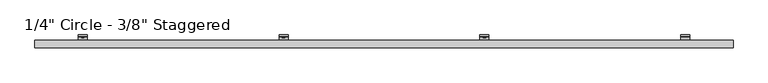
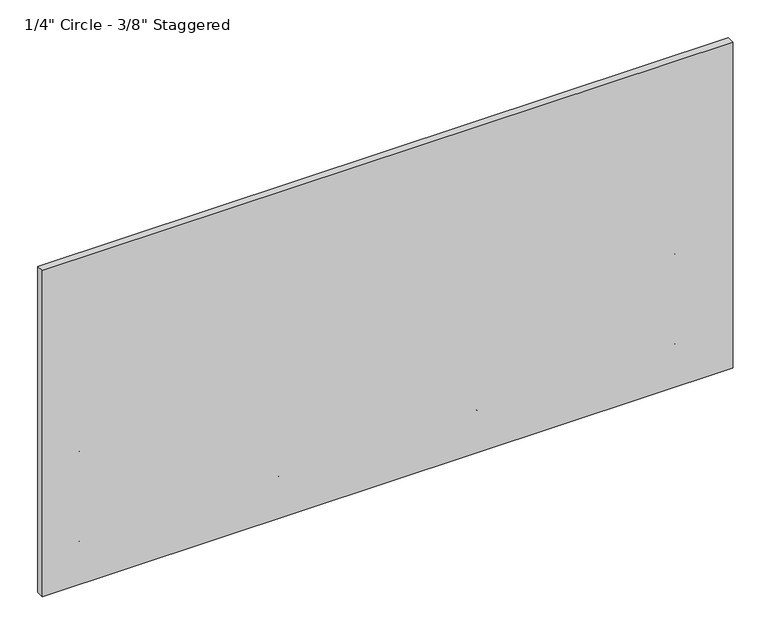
"""IFC4 building model written with IfcOpenShell, lengths in millimetres: plate geometry."""

from ifc_helpers import new_model, si_unit, point, frame, frame_2d, origin, place, context, project, spatial, polyline, circle_curve, trimmed, segment, composite_curve, outline, extrude, source, transform, mapped, element, save
from ifc_brep_helpers import plane_surface, cylinder_surface, revolved_surface, advanced_brep


def plate_d884827e(model_context):
    return source(origin(), model_context, "Body", "SolidModel", [
        advanced_brep(
        [(1259.453798, -47.625, 561.2468868), (1259.453798, -51.2819443, 553.5848544), (1259.453798, -89.5163624, 526.8128266), (1259.453798, -92.9330442, 530.2295084), (1259.453798, -54.3526876, 557.2437649), (1259.453798, -52.4002, 561.2469577), (1259.453798, -52.4002, 595.439572), (1259.453798, -47.625, 595.439572), (1297.553798, -47.625, 561.2468868), (1297.553798, -47.625, 595.439572), (1297.553798, -52.4002, 595.439572), (1297.553798, -52.4002, 561.2469577), (1297.553798, -54.3526876, 557.2437649), (1297.553798, -92.9330442, 530.2295084), (1297.553798, -89.5163624, 526.8128266), (1297.553798, -51.2819443, 553.5848544), (1285.2449869, -52.4002, 581.3943558), (1285.2449869, -52.4002, 575.0443558), (1269.0171267, -52.4002, 575.0443558), (1269.0171267, -52.4002, 581.3943558), (1285.2449869, -47.625, 575.0443558), (1285.2449869, -47.625, 581.3943558), (1269.0171267, -47.625, 581.3943558), (1269.0171267, -47.625, 575.0443558)],
        [
            (0, 1, circle_curve(frame((1259.453798, -57.4802202, 561.2468868), z_axis=(-1.0, 0.0, 0.0), x_axis=(0.0, -1.0, 0.0)), 9.8552202)),
            (1, 2),
            (2, 3),
            (3, 4),
            (4, 5, circle_curve(frame((1259.453798, -57.4803246, 561.2469577), z_axis=(1.0, 0.0, 0.0), x_axis=(0.0, -1.0, 0.0)), 5.0801246)),
            (5, 6),
            (6, 7),
            (7, 0),
            (8, 9),
            (9, 10),
            (10, 11),
            (11, 12, circle_curve(frame((1297.553798, -57.4803246, 561.2469577), z_axis=(-1.0, 0.0, 0.0), x_axis=(0.0, -1.0, 0.0)), 5.0801246)),
            (12, 13),
            (13, 14),
            (14, 15),
            (15, 8, circle_curve(frame((1297.553798, -57.4802202, 561.2468868), z_axis=(1.0, 0.0, 0.0), x_axis=(0.0, -1.0, 0.0)), 9.8552202)),
            (4, 12),
            (11, 5),
            (10, 6),
            (16, 17, circle_curve(frame((1285.2449869, -52.4002, 578.2193558), z_axis=(0.0, 1.0, 0.0), x_axis=(0.0, 0.0, -1.0)), 3.175)),
            (17, 18),
            (18, 19, circle_curve(frame((1269.0171267, -52.4002, 578.2193558), z_axis=(0.0, 1.0, 0.0), x_axis=(0.0, 0.0, -1.0)), 3.175)),
            (19, 16),
            (9, 7),
            (8, 0),
            (20, 21, circle_curve(frame((1285.2449869, -47.625, 578.2193558), z_axis=(0.0, -1.0, 0.0), x_axis=(0.0, 0.0, -1.0)), 3.175)),
            (21, 22),
            (22, 23, circle_curve(frame((1269.0171267, -47.625, 578.2193558), z_axis=(0.0, -1.0, 0.0), x_axis=(0.0, 0.0, -1.0)), 3.175)),
            (23, 20),
            (15, 1),
            (20, 17),
            (16, 21),
            (19, 22),
            (18, 23),
            (14, 2),
            (13, 3),
        ],
        [
            plane_surface(frame((1259.453798, -67.3354404, 561.2468868), z_axis=(-1.0, 0.0, 0.0), x_axis=(0.0, 0.0, 1.0))),
            plane_surface(frame((1297.553798, -67.3354404, 561.2468868), z_axis=(1.0, 0.0, 0.0), x_axis=(0.0, 0.0, -1.0))),
            revolved_surface(polyline([(1297.553798, -62.5604492, 561.2469577), (1259.453798, -62.5604492, 561.2469577)]), (1297.553798, -57.4803246, 561.2469577), (1.0, 0.0, 0.0)),
            plane_surface(frame((1259.453798, -52.4002, 561.2469577), z_axis=(0.0, -1.0, 0.0), x_axis=(1.0, 0.0, 0.0))),
            plane_surface(frame((1259.453798, -52.4002, 595.439572), z_axis=(0.0, 0.0, 1.0), x_axis=(1.0, 0.0, 0.0))),
            plane_surface(frame((1259.453798, -47.625, 595.439572), z_axis=(0.0, 1.0, 6.99569853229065e-12), x_axis=(1.0, 0.0, 0.0))),
            cylinder_surface(frame((1297.553798, -57.4802202, 561.2468868), z_axis=(-1.0, 0.0, 0.0), x_axis=(0.0, -1.0, 0.0)), 9.8552202),
            revolved_surface(polyline([(1285.2449869, -52.4002, 575.0443558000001), (1285.2449869, -47.625, 575.0443558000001)]), (1285.2449869, -25.6669948, 578.2193558), (0.0, -1.0, 0.0)),
            plane_surface(frame((1285.2449869, -86.677982, 581.3943558), z_axis=(0.0, 0.0, -1.0), x_axis=(0.0, 1.0, 0.0))),
            revolved_surface(polyline([(1269.0171267, -52.4002, 575.0443558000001), (1269.0171267, -47.625, 575.0443558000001)]), (1269.0171267, -25.6669948, 578.2193558), (0.0, -1.0, 0.0)),
            plane_surface(frame((1269.0171267, -86.677982, 575.0443558), z_axis=(-2.7237733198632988e-11, 0.0, 1.0), x_axis=(0.0, 1.0, 0.0))),
            plane_surface(frame((1259.453798, -51.2819443, 553.5848544), z_axis=(0.0, 0.5735764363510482, -0.8191520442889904), x_axis=(1.0, 0.0, 0.0))),
            plane_surface(frame((1259.453798, -89.5163624, 526.8128266), z_axis=(0.0, -0.7071067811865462, -0.7071067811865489), x_axis=(1.0, 0.0, 0.0))),
            plane_surface(frame((1259.453798, -92.9330442, 530.2295084), z_axis=(0.0, -0.5735764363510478, 0.8191520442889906), x_axis=(1.0, 0.0, 0.0))),
        ],
        [
            (0, [[1, 2, 3, 4, 5, 6, 7, 8]]),
            (1, [[9, 10, 11, 12, 13, 14, 15, 16]]),
            (2, [[-5, 17, -12, 18]]),
            (3, [[-6, -18, -11, 19], [20, 21, 22, 23]]),
            (4, [[-7, -19, -10, 24]]),
            (5, [[-8, -24, -9, 25], [26, 27, 28, 29]]),
            (6, [[-1, -25, -16, 30]]),
            (7, [[31, -20, 32, -26]]),
            (8, [[-32, -23, 33, -27]]),
            (9, [[-33, -22, 34, -28]]),
            (10, [[-31, -29, -34, -21]]),
            (11, [[-2, -30, -15, 35]]),
            (12, [[-3, -35, -14, 36]]),
            (13, [[-4, -36, -13, -17]]),
        ],
    ),
        extrude(outline(polyline([(578.3961989, 421.1499361), (574.0504864, 423.6589344), (574.0504864, 428.676931), (578.3961989, 431.1859292), (582.7419114, 428.676931), (582.7419114, 423.6589344), (578.3961989, 421.1499361)])), frame((0.0, -58.7607779, 0.0), z_axis=(0.0, 1.0, 0.0), x_axis=(0.0, 0.0, 1.0)), (0.0, 0.0, 1.0), 11.1357779),
        extrude(outline(composite_curve([segment(trimmed(circle_curve(frame_2d((578.4895059, 426.1679327)), 6.35), [point((578.4895059, 432.5179327))], [point((578.4895059, 419.8179327))], False, "CARTESIAN"), True, "CONTINUOUS"), segment(trimmed(circle_curve(frame_2d((578.4895059, 426.1679327)), 6.35), [point((578.4895059, 419.8179327))], [point((578.4895059, 432.5179327))], False, "CARTESIAN"), True, "CONTINUOUS")], self_intersect=False)), frame((0.0, -57.0817743, 0.0), z_axis=(0.0, 1.0, 0.0), x_axis=(0.0, 0.0, 1.0)), (0.0, 0.0, 1.0), 9.4567743),
        advanced_brep(
        [(407.1179327, -47.625, 561.2468868), (407.1179327, -51.2819443, 553.5848544), (407.1179327, -89.5163624, 526.8128266), (407.1179327, -92.9330442, 530.2295084), (407.1179327, -54.3526876, 557.2437649), (407.1179327, -52.4002, 561.2469577), (407.1179327, -52.4002, 595.439572), (407.1179327, -47.625, 595.439572), (445.2179327, -47.625, 561.2468868), (445.2179327, -47.625, 595.439572), (445.2179327, -52.4002, 595.439572), (445.2179327, -52.4002, 561.2469577), (445.2179327, -54.3526876, 557.2437649), (445.2179327, -92.9330442, 530.2295084), (445.2179327, -89.5163624, 526.8128266), (445.2179327, -51.2819443, 553.5848544), (432.9091216, -52.4002, 581.3943558), (432.9091216, -52.4002, 575.0443558), (416.6812614, -52.4002, 575.0443558), (416.6812614, -52.4002, 581.3943558), (432.9091216, -47.625, 575.0443558), (432.9091216, -47.625, 581.3943558), (416.6812614, -47.625, 581.3943558), (416.6812614, -47.625, 575.0443558)],
        [
            (0, 1, circle_curve(frame((407.1179327, -57.4802202, 561.2468868), z_axis=(-1.0, 0.0, 0.0), x_axis=(0.0, -1.0, 0.0)), 9.8552202)),
            (1, 2),
            (2, 3),
            (3, 4),
            (4, 5, circle_curve(frame((407.1179327, -57.4803246, 561.2469577), z_axis=(1.0, 0.0, 0.0), x_axis=(0.0, -1.0, 0.0)), 5.0801246)),
            (5, 6),
            (6, 7),
            (7, 0),
            (8, 9),
            (9, 10),
            (10, 11),
            (11, 12, circle_curve(frame((445.2179327, -57.4803246, 561.2469577), z_axis=(-1.0, 0.0, 0.0), x_axis=(0.0, -1.0, 0.0)), 5.0801246)),
            (12, 13),
            (13, 14),
            (14, 15),
            (15, 8, circle_curve(frame((445.2179327, -57.4802202, 561.2468868), z_axis=(1.0, 0.0, 0.0), x_axis=(0.0, -1.0, 0.0)), 9.8552202)),
            (4, 12),
            (11, 5),
            (10, 6),
            (16, 17, circle_curve(frame((432.9091216, -52.4002, 578.2193558), z_axis=(0.0, 1.0, 0.0), x_axis=(0.0, 0.0, -1.0)), 3.175)),
            (17, 18),
            (18, 19, circle_curve(frame((416.6812614, -52.4002, 578.2193558), z_axis=(0.0, 1.0, 0.0), x_axis=(0.0, 0.0, -1.0)), 3.175)),
            (19, 16),
            (9, 7),
            (8, 0),
            (20, 21, circle_curve(frame((432.9091216, -47.625, 578.2193558), z_axis=(0.0, -1.0, 0.0), x_axis=(0.0, 0.0, -1.0)), 3.175)),
            (21, 22),
            (22, 23, circle_curve(frame((416.6812614, -47.625, 578.2193558), z_axis=(0.0, -1.0, 0.0), x_axis=(0.0, 0.0, -1.0)), 3.175)),
            (23, 20),
            (15, 1),
            (20, 17),
            (16, 21),
            (19, 22),
            (18, 23),
            (14, 2),
            (13, 3),
        ],
        [
            plane_surface(frame((407.1179327, -67.3354404, 561.2468868), z_axis=(-1.0, 0.0, 0.0), x_axis=(0.0, 0.0, 1.0))),
            plane_surface(frame((445.2179327, -67.3354404, 561.2468868), z_axis=(1.0, 0.0, 0.0), x_axis=(0.0, 0.0, -1.0))),
            revolved_surface(polyline([(445.2179327, -62.5604492, 561.2469577), (407.1179327, -62.5604492, 561.2469577)]), (445.2179327, -57.4803246, 561.2469577), (1.0, 0.0, 0.0)),
            plane_surface(frame((407.1179327, -52.4002, 561.2469577), z_axis=(0.0, -1.0, 0.0), x_axis=(1.0, 0.0, 0.0))),
            plane_surface(frame((407.1179327, -52.4002, 595.439572), z_axis=(0.0, 0.0, 1.0), x_axis=(1.0, 0.0, 0.0))),
            plane_surface(frame((407.1179327, -47.625, 595.439572), z_axis=(0.0, 1.0, 6.99569853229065e-12), x_axis=(1.0, 0.0, 0.0))),
            cylinder_surface(frame((445.2179327, -57.4802202, 561.2468868), z_axis=(-1.0, 0.0, 0.0), x_axis=(0.0, -1.0, 0.0)), 9.8552202),
            revolved_surface(polyline([(432.9091216, -52.4002, 575.0443558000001), (432.9091216, -47.625, 575.0443558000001)]), (432.9091216, -25.6669948, 578.2193558), (0.0, -1.0, 0.0)),
            plane_surface(frame((432.9091216, -86.677982, 581.3943558), z_axis=(0.0, 0.0, -1.0), x_axis=(0.0, 1.0, 0.0))),
            revolved_surface(polyline([(416.6812614, -52.4002, 575.0443558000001), (416.6812614, -47.625, 575.0443558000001)]), (416.6812614, -25.6669948, 578.2193558), (0.0, -1.0, 0.0)),
            plane_surface(frame((416.6812614, -86.677982, 575.0443558), z_axis=(-2.7237733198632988e-11, 0.0, 1.0), x_axis=(0.0, 1.0, 0.0))),
            plane_surface(frame((407.1179327, -51.2819443, 553.5848544), z_axis=(0.0, 0.5735764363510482, -0.8191520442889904), x_axis=(1.0, 0.0, 0.0))),
            plane_surface(frame((407.1179327, -89.5163624, 526.8128266), z_axis=(0.0, -0.7071067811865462, -0.7071067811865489), x_axis=(1.0, 0.0, 0.0))),
            plane_surface(frame((407.1179327, -92.9330442, 530.2295084), z_axis=(0.0, -0.5735764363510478, 0.8191520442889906), x_axis=(1.0, 0.0, 0.0))),
        ],
        [
            (0, [[1, 2, 3, 4, 5, 6, 7, 8]]),
            (1, [[9, 10, 11, 12, 13, 14, 15, 16]]),
            (2, [[-5, 17, -12, 18]]),
            (3, [[-6, -18, -11, 19], [20, 21, 22, 23]]),
            (4, [[-7, -19, -10, 24]]),
            (5, [[-8, -24, -9, 25], [26, 27, 28, 29]]),
            (6, [[-1, -25, -16, 30]]),
            (7, [[31, -20, 32, -26]]),
            (8, [[-32, -23, 33, -27]]),
            (9, [[-33, -22, 34, -28]]),
            (10, [[-31, -29, -34, -21]]),
            (11, [[-2, -30, -15, 35]]),
            (12, [[-3, -35, -14, 36]]),
            (13, [[-4, -36, -13, -17]]),
        ],
    ),
        extrude(outline(polyline([(578.3961989, -431.1859292), (574.0504864, -428.676931), (574.0504864, -423.6589344), (578.3961989, -421.1499361), (582.7419114, -423.6589344), (582.7419114, -428.676931), (578.3961989, -431.1859292)])), frame((0.0, -58.7607779, 0.0), z_axis=(0.0, 1.0, 0.0), x_axis=(0.0, 0.0, 1.0)), (0.0, 0.0, 1.0), 11.1357779),
        extrude(outline(composite_curve([segment(trimmed(circle_curve(frame_2d((578.4895059, -426.1679327)), 6.35), [point((578.4895059, -419.8179327))], [point((578.4895059, -432.5179327))], False, "CARTESIAN"), True, "CONTINUOUS"), segment(trimmed(circle_curve(frame_2d((578.4895059, -426.1679327)), 6.35), [point((578.4895059, -432.5179327))], [point((578.4895059, -419.8179327))], False, "CARTESIAN"), True, "CONTINUOUS")], self_intersect=False)), frame((0.0, -57.0817743, 0.0), z_axis=(0.0, 1.0, 0.0), x_axis=(0.0, 0.0, 1.0)), (0.0, 0.0, 1.0), 9.4567743),
        advanced_brep(
        [(-445.2179327, -47.625, 561.2468868), (-445.2179327, -51.2819443, 553.5848544), (-445.2179327, -89.5163624, 526.8128266), (-445.2179327, -92.9330442, 530.2295084), (-445.2179327, -54.3526876, 557.2437649), (-445.2179327, -52.4002, 561.2469577), (-445.2179327, -52.4002, 595.439572), (-445.2179327, -47.625, 595.439572), (-407.1179327, -47.625, 561.2468868), (-407.1179327, -47.625, 595.439572), (-407.1179327, -52.4002, 595.439572), (-407.1179327, -52.4002, 561.2469577), (-407.1179327, -54.3526876, 557.2437649), (-407.1179327, -92.9330442, 530.2295084), (-407.1179327, -89.5163624, 526.8128266), (-407.1179327, -51.2819443, 553.5848544), (-419.4267438, -52.4002, 581.3943558), (-419.4267438, -52.4002, 575.0443558), (-435.654604, -52.4002, 575.0443558), (-435.654604, -52.4002, 581.3943558), (-419.4267438, -47.625, 575.0443558), (-419.4267438, -47.625, 581.3943558), (-435.654604, -47.625, 581.3943558), (-435.654604, -47.625, 575.0443558)],
        [
            (0, 1, circle_curve(frame((-445.2179327, -57.4802202, 561.2468868), z_axis=(-1.0, 0.0, 0.0), x_axis=(0.0, -1.0, 0.0)), 9.8552202)),
            (1, 2),
            (2, 3),
            (3, 4),
            (4, 5, circle_curve(frame((-445.2179327, -57.4803246, 561.2469577), z_axis=(1.0, 0.0, 0.0), x_axis=(0.0, -1.0, 0.0)), 5.0801246)),
            (5, 6),
            (6, 7),
            (7, 0),
            (8, 9),
            (9, 10),
            (10, 11),
            (11, 12, circle_curve(frame((-407.1179327, -57.4803246, 561.2469577), z_axis=(-1.0, 0.0, 0.0), x_axis=(0.0, -1.0, 0.0)), 5.0801246)),
            (12, 13),
            (13, 14),
            (14, 15),
            (15, 8, circle_curve(frame((-407.1179327, -57.4802202, 561.2468868), z_axis=(1.0, 0.0, 0.0), x_axis=(0.0, -1.0, 0.0)), 9.8552202)),
            (4, 12),
            (11, 5),
            (10, 6),
            (16, 17, circle_curve(frame((-419.4267438, -52.4002, 578.2193558), z_axis=(0.0, 1.0, 0.0), x_axis=(0.0, 0.0, -1.0)), 3.175)),
            (17, 18),
            (18, 19, circle_curve(frame((-435.654604, -52.4002, 578.2193558), z_axis=(0.0, 1.0, 0.0), x_axis=(0.0, 0.0, -1.0)), 3.175)),
            (19, 16),
            (9, 7),
            (8, 0),
            (20, 21, circle_curve(frame((-419.4267438, -47.625, 578.2193558), z_axis=(0.0, -1.0, 0.0), x_axis=(0.0, 0.0, -1.0)), 3.175)),
            (21, 22),
            (22, 23, circle_curve(frame((-435.654604, -47.625, 578.2193558), z_axis=(0.0, -1.0, 0.0), x_axis=(0.0, 0.0, -1.0)), 3.175)),
            (23, 20),
            (15, 1),
            (20, 17),
            (16, 21),
            (19, 22),
            (18, 23),
            (14, 2),
            (13, 3),
        ],
        [
            plane_surface(frame((-445.2179327, -67.3354404, 561.2468868), z_axis=(-1.0, 0.0, 0.0), x_axis=(0.0, 0.0, 1.0))),
            plane_surface(frame((-407.1179327, -67.3354404, 561.2468868), z_axis=(1.0, 0.0, 0.0), x_axis=(0.0, 0.0, -1.0))),
            revolved_surface(polyline([(-407.1179327, -62.5604492, 561.2469577), (-445.2179327, -62.5604492, 561.2469577)]), (-407.1179327, -57.4803246, 561.2469577), (1.0, 0.0, 0.0)),
            plane_surface(frame((-445.2179327, -52.4002, 561.2469577), z_axis=(0.0, -1.0, 0.0), x_axis=(1.0, 0.0, 0.0))),
            plane_surface(frame((-445.2179327, -52.4002, 595.439572), z_axis=(0.0, 0.0, 1.0), x_axis=(1.0, 0.0, 0.0))),
            plane_surface(frame((-445.2179327, -47.625, 595.439572), z_axis=(0.0, 1.0, 6.99569853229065e-12), x_axis=(1.0, 0.0, 0.0))),
            cylinder_surface(frame((-407.1179327, -57.4802202, 561.2468868), z_axis=(-1.0, 0.0, 0.0), x_axis=(0.0, -1.0, 0.0)), 9.8552202),
            revolved_surface(polyline([(-419.4267438, -52.4002, 575.0443558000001), (-419.4267438, -47.625, 575.0443558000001)]), (-419.4267438, -25.6669948, 578.2193558), (0.0, -1.0, 0.0)),
            plane_surface(frame((-419.4267438, -86.677982, 581.3943558), z_axis=(0.0, 0.0, -1.0), x_axis=(0.0, 1.0, 0.0))),
            revolved_surface(polyline([(-435.654604, -52.4002, 575.0443558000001), (-435.654604, -47.625, 575.0443558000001)]), (-435.654604, -25.6669948, 578.2193558), (0.0, -1.0, 0.0)),
            plane_surface(frame((-435.654604, -86.677982, 575.0443558), z_axis=(-2.7237733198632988e-11, 0.0, 1.0), x_axis=(0.0, 1.0, 0.0))),
            plane_surface(frame((-445.2179327, -51.2819443, 553.5848544), z_axis=(0.0, 0.5735764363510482, -0.8191520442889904), x_axis=(1.0, 0.0, 0.0))),
            plane_surface(frame((-445.2179327, -89.5163624, 526.8128266), z_axis=(0.0, -0.7071067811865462, -0.7071067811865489), x_axis=(1.0, 0.0, 0.0))),
            plane_surface(frame((-445.2179327, -92.9330442, 530.2295084), z_axis=(0.0, -0.5735764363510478, 0.8191520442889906), x_axis=(1.0, 0.0, 0.0))),
        ],
        [
            (0, [[1, 2, 3, 4, 5, 6, 7, 8]]),
            (1, [[9, 10, 11, 12, 13, 14, 15, 16]]),
            (2, [[-5, 17, -12, 18]]),
            (3, [[-6, -18, -11, 19], [20, 21, 22, 23]]),
            (4, [[-7, -19, -10, 24]]),
            (5, [[-8, -24, -9, 25], [26, 27, 28, 29]]),
            (6, [[-1, -25, -16, 30]]),
            (7, [[31, -20, 32, -26]]),
            (8, [[-32, -23, 33, -27]]),
            (9, [[-33, -22, 34, -28]]),
            (10, [[-31, -29, -34, -21]]),
            (11, [[-2, -30, -15, 35]]),
            (12, [[-3, -35, -14, 36]]),
            (13, [[-4, -36, -13, -17]]),
        ],
    ),
        extrude(outline(polyline([(578.3961989, -1283.5217946), (574.0504864, -1281.0127963), (574.0504864, -1275.9947997), (578.3961989, -1273.4858014), (582.7419114, -1275.9947997), (582.7419114, -1281.0127963), (578.3961989, -1283.5217946)])), frame((0.0, -58.7607779, 0.0), z_axis=(0.0, 1.0, 0.0), x_axis=(0.0, 0.0, 1.0)), (0.0, 0.0, 1.0), 11.1357779),
        extrude(outline(composite_curve([segment(trimmed(circle_curve(frame_2d((578.4895059, -1278.503798)), 6.35), [point((578.4895059, -1272.153798))], [point((578.4895059, -1284.853798))], False, "CARTESIAN"), True, "CONTINUOUS"), segment(trimmed(circle_curve(frame_2d((578.4895059, -1278.503798)), 6.35), [point((578.4895059, -1284.853798))], [point((578.4895059, -1272.153798))], False, "CARTESIAN"), True, "CONTINUOUS")], self_intersect=False)), frame((0.0, -57.0817743, 0.0), z_axis=(0.0, 1.0, 0.0), x_axis=(0.0, 0.0, 1.0)), (0.0, 0.0, 1.0), 9.4567743),
        advanced_brep(
        [(-1297.553798, -47.625, 561.2468868), (-1297.553798, -51.2819443, 553.5848544), (-1297.553798, -89.5163624, 526.8128266), (-1297.553798, -92.9330442, 530.2295084), (-1297.553798, -54.3526876, 557.2437649), (-1297.553798, -52.4002, 561.2469577), (-1297.553798, -52.4002, 595.439572), (-1297.553798, -47.625, 595.439572), (-1259.453798, -47.625, 561.2468868), (-1259.453798, -47.625, 595.439572), (-1259.453798, -52.4002, 595.439572), (-1259.453798, -52.4002, 561.2469577), (-1259.453798, -54.3526876, 557.2437649), (-1259.453798, -92.9330442, 530.2295084), (-1259.453798, -89.5163624, 526.8128266), (-1259.453798, -51.2819443, 553.5848544), (-1271.7626091, -52.4002, 581.3943558), (-1271.7626091, -52.4002, 575.0443558), (-1287.9904693, -52.4002, 575.0443558), (-1287.9904693, -52.4002, 581.3943558), (-1271.7626091, -47.625, 575.0443558), (-1271.7626091, -47.625, 581.3943558), (-1287.9904693, -47.625, 581.3943558), (-1287.9904693, -47.625, 575.0443558)],
        [
            (0, 1, circle_curve(frame((-1297.553798, -57.4802202, 561.2468868), z_axis=(-1.0, 0.0, 0.0), x_axis=(0.0, -1.0, 0.0)), 9.8552202)),
            (1, 2),
            (2, 3),
            (3, 4),
            (4, 5, circle_curve(frame((-1297.553798, -57.4803246, 561.2469577), z_axis=(1.0, 0.0, 0.0), x_axis=(0.0, -1.0, 0.0)), 5.0801246)),
            (5, 6),
            (6, 7),
            (7, 0),
            (8, 9),
            (9, 10),
            (10, 11),
            (11, 12, circle_curve(frame((-1259.453798, -57.4803246, 561.2469577), z_axis=(-1.0, 0.0, 0.0), x_axis=(0.0, -1.0, 0.0)), 5.0801246)),
            (12, 13),
            (13, 14),
            (14, 15),
            (15, 8, circle_curve(frame((-1259.453798, -57.4802202, 561.2468868), z_axis=(1.0, 0.0, 0.0), x_axis=(0.0, -1.0, 0.0)), 9.8552202)),
            (4, 12),
            (11, 5),
            (10, 6),
            (16, 17, circle_curve(frame((-1271.7626091, -52.4002, 578.2193558), z_axis=(0.0, 1.0, 0.0), x_axis=(0.0, 0.0, -1.0)), 3.175)),
            (17, 18),
            (18, 19, circle_curve(frame((-1287.9904693, -52.4002, 578.2193558), z_axis=(0.0, 1.0, 0.0), x_axis=(0.0, 0.0, -1.0)), 3.175)),
            (19, 16),
            (9, 7),
            (8, 0),
            (20, 21, circle_curve(frame((-1271.7626091, -47.625, 578.2193558), z_axis=(0.0, -1.0, 0.0), x_axis=(0.0, 0.0, -1.0)), 3.175)),
            (21, 22),
            (22, 23, circle_curve(frame((-1287.9904693, -47.625, 578.2193558), z_axis=(0.0, -1.0, 0.0), x_axis=(0.0, 0.0, -1.0)), 3.175)),
            (23, 20),
            (15, 1),
            (20, 17),
            (16, 21),
            (19, 22),
            (18, 23),
            (14, 2),
            (13, 3),
        ],
        [
            plane_surface(frame((-1297.553798, -67.3354404, 561.2468868), z_axis=(-1.0, 0.0, 0.0), x_axis=(0.0, 0.0, 1.0))),
            plane_surface(frame((-1259.453798, -67.3354404, 561.2468868), z_axis=(1.0, 0.0, 0.0), x_axis=(0.0, 0.0, -1.0))),
            revolved_surface(polyline([(-1259.453798, -62.5604492, 561.2469577), (-1297.553798, -62.5604492, 561.2469577)]), (-1259.453798, -57.4803246, 561.2469577), (1.0, 0.0, 0.0)),
            plane_surface(frame((-1297.553798, -52.4002, 561.2469577), z_axis=(0.0, -1.0, 0.0), x_axis=(1.0, 0.0, 0.0))),
            plane_surface(frame((-1297.553798, -52.4002, 595.439572), z_axis=(0.0, 0.0, 1.0), x_axis=(1.0, 0.0, 0.0))),
            plane_surface(frame((-1297.553798, -47.625, 595.439572), z_axis=(0.0, 1.0, 6.99569853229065e-12), x_axis=(1.0, 0.0, 0.0))),
            cylinder_surface(frame((-1259.453798, -57.4802202, 561.2468868), z_axis=(-1.0, 0.0, 0.0), x_axis=(0.0, -1.0, 0.0)), 9.8552202),
            revolved_surface(polyline([(-1271.7626091, -52.4002, 575.0443558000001), (-1271.7626091, -47.625, 575.0443558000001)]), (-1271.7626091, -25.6669948, 578.2193558), (0.0, -1.0, 0.0)),
            plane_surface(frame((-1271.7626091, -86.677982, 581.3943558), z_axis=(0.0, 0.0, -1.0), x_axis=(0.0, 1.0, 0.0))),
            revolved_surface(polyline([(-1287.9904693, -52.4002, 575.0443558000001), (-1287.9904693, -47.625, 575.0443558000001)]), (-1287.9904693, -25.6669948, 578.2193558), (0.0, -1.0, 0.0)),
            plane_surface(frame((-1287.9904693, -86.677982, 575.0443558), z_axis=(-2.7237733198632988e-11, 0.0, 1.0), x_axis=(0.0, 1.0, 0.0))),
            plane_surface(frame((-1297.553798, -51.2819443, 553.5848544), z_axis=(0.0, 0.5735764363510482, -0.8191520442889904), x_axis=(1.0, 0.0, 0.0))),
            plane_surface(frame((-1297.553798, -89.5163624, 526.8128266), z_axis=(0.0, -0.7071067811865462, -0.7071067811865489), x_axis=(1.0, 0.0, 0.0))),
            plane_surface(frame((-1297.553798, -92.9330442, 530.2295084), z_axis=(0.0, -0.5735764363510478, 0.8191520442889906), x_axis=(1.0, 0.0, 0.0))),
        ],
        [
            (0, [[1, 2, 3, 4, 5, 6, 7, 8]]),
            (1, [[9, 10, 11, 12, 13, 14, 15, 16]]),
            (2, [[-5, 17, -12, 18]]),
            (3, [[-6, -18, -11, 19], [20, 21, 22, 23]]),
            (4, [[-7, -19, -10, 24]]),
            (5, [[-8, -24, -9, 25], [26, 27, 28, 29]]),
            (6, [[-1, -25, -16, 30]]),
            (7, [[31, -20, 32, -26]]),
            (8, [[-32, -23, 33, -27]]),
            (9, [[-33, -22, 34, -28]]),
            (10, [[-31, -29, -34, -21]]),
            (11, [[-2, -30, -15, 35]]),
            (12, [[-3, -35, -14, 36]]),
            (13, [[-4, -36, -13, -17]]),
        ],
    ),
        extrude(outline(polyline([(169.8795323, 1273.4858014), (165.5338197, 1275.9947997), (165.5338197, 1281.0127963), (169.8795323, 1283.5217946), (174.2252448, 1281.0127963), (174.2252448, 1275.9947997), (169.8795323, 1273.4858014)])), frame((0.0, -58.7607779, 0.0), z_axis=(0.0, 1.0, 0.0), x_axis=(0.0, 0.0, 1.0)), (0.0, 0.0, 1.0), 11.1357779),
        extrude(outline(composite_curve([segment(trimmed(circle_curve(frame_2d((169.9728392, 1278.503798)), 6.35), [point((169.9728392, 1284.853798))], [point((169.9728392, 1272.153798))], False, "CARTESIAN"), True, "CONTINUOUS"), segment(trimmed(circle_curve(frame_2d((169.9728392, 1278.503798)), 6.35), [point((169.9728392, 1272.153798))], [point((169.9728392, 1284.853798))], False, "CARTESIAN"), True, "CONTINUOUS")], self_intersect=False)), frame((0.0, -57.0817743, 0.0), z_axis=(0.0, 1.0, 0.0), x_axis=(0.0, 0.0, 1.0)), (0.0, 0.0, 1.0), 9.4567743),
        advanced_brep(
        [(1259.453798, -47.625, 152.7302202), (1259.453798, -51.2819443, 145.0681877), (1259.453798, -89.5163624, 118.29616), (1259.453798, -92.9330442, 121.7128418), (1259.453798, -54.3526876, 148.7270983), (1259.453798, -52.4002, 152.7302911), (1259.453798, -52.4002, 186.9229053), (1259.453798, -47.625, 186.9229053), (1297.553798, -47.625, 152.7302202), (1297.553798, -47.625, 186.9229053), (1297.553798, -52.4002, 186.9229053), (1297.553798, -52.4002, 152.7302911), (1297.553798, -54.3526876, 148.7270983), (1297.553798, -92.9330442, 121.7128418), (1297.553798, -89.5163624, 118.29616), (1297.553798, -51.2819443, 145.0681877), (1285.2449869, -52.4002, 172.8776891), (1285.2449869, -52.4002, 166.5276891), (1269.0171267, -52.4002, 166.5276891), (1269.0171267, -52.4002, 172.8776891), (1285.2449869, -47.625, 166.5276891), (1285.2449869, -47.625, 172.8776891), (1269.0171267, -47.625, 172.8776891), (1269.0171267, -47.625, 166.5276891)],
        [
            (0, 1, circle_curve(frame((1259.453798, -57.4802202, 152.7302202), z_axis=(-1.0, 0.0, 0.0), x_axis=(0.0, -1.0, 0.0)), 9.8552202)),
            (1, 2),
            (2, 3),
            (3, 4),
            (4, 5, circle_curve(frame((1259.453798, -57.4803246, 152.7302911), z_axis=(1.0, 0.0, 0.0), x_axis=(0.0, -1.0, 0.0)), 5.0801246)),
            (5, 6),
            (6, 7),
            (7, 0),
            (8, 9),
            (9, 10),
            (10, 11),
            (11, 12, circle_curve(frame((1297.553798, -57.4803246, 152.7302911), z_axis=(-1.0, 0.0, 0.0), x_axis=(0.0, -1.0, 0.0)), 5.0801246)),
            (12, 13),
            (13, 14),
            (14, 15),
            (15, 8, circle_curve(frame((1297.553798, -57.4802202, 152.7302202), z_axis=(1.0, 0.0, 0.0), x_axis=(0.0, -1.0, 0.0)), 9.8552202)),
            (4, 12),
            (11, 5),
            (10, 6),
            (16, 17, circle_curve(frame((1285.2449869, -52.4002, 169.7026891), z_axis=(0.0, 1.0, 0.0), x_axis=(0.0, 0.0, -1.0)), 3.175)),
            (17, 18),
            (18, 19, circle_curve(frame((1269.0171267, -52.4002, 169.7026891), z_axis=(0.0, 1.0, 0.0), x_axis=(0.0, 0.0, -1.0)), 3.175)),
            (19, 16),
            (9, 7),
            (8, 0),
            (20, 21, circle_curve(frame((1285.2449869, -47.625, 169.7026891), z_axis=(0.0, -1.0, 0.0), x_axis=(0.0, 0.0, -1.0)), 3.175)),
            (21, 22),
            (22, 23, circle_curve(frame((1269.0171267, -47.625, 169.7026891), z_axis=(0.0, -1.0, 0.0), x_axis=(0.0, 0.0, -1.0)), 3.175)),
            (23, 20),
            (15, 1),
            (20, 17),
            (16, 21),
            (19, 22),
            (18, 23),
            (14, 2),
            (13, 3),
        ],
        [
            plane_surface(frame((1259.453798, -67.3354404, 152.7302202), z_axis=(-1.0, 0.0, 0.0), x_axis=(0.0, 0.0, 1.0))),
            plane_surface(frame((1297.553798, -67.3354404, 152.7302202), z_axis=(1.0, 0.0, 0.0), x_axis=(0.0, 0.0, -1.0))),
            revolved_surface(polyline([(1297.553798, -62.5604492, 152.7302911), (1259.453798, -62.5604492, 152.7302911)]), (1297.553798, -57.4803246, 152.7302911), (1.0, 0.0, 0.0)),
            plane_surface(frame((1259.453798, -52.4002, 152.7302911), z_axis=(0.0, -1.0, 0.0), x_axis=(1.0, 0.0, 0.0))),
            plane_surface(frame((1259.453798, -52.4002, 186.9229053), z_axis=(0.0, 0.0, 1.0), x_axis=(1.0, 0.0, 0.0))),
            plane_surface(frame((1259.453798, -47.625, 186.9229053), z_axis=(0.0, 1.0, 6.99569853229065e-12), x_axis=(1.0, 0.0, 0.0))),
            cylinder_surface(frame((1297.553798, -57.4802202, 152.7302202), z_axis=(-1.0, 0.0, 0.0), x_axis=(0.0, -1.0, 0.0)), 9.8552202),
            revolved_surface(polyline([(1285.2449869, -52.4002, 166.52768909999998), (1285.2449869, -47.625, 166.52768909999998)]), (1285.2449869, -25.6669948, 169.7026891), (0.0, -1.0, 0.0)),
            plane_surface(frame((1285.2449869, -86.677982, 172.8776891), z_axis=(0.0, 0.0, -1.0), x_axis=(0.0, 1.0, 0.0))),
            revolved_surface(polyline([(1269.0171267, -52.4002, 166.52768909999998), (1269.0171267, -47.625, 166.52768909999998)]), (1269.0171267, -25.6669948, 169.7026891), (0.0, -1.0, 0.0)),
            plane_surface(frame((1269.0171267, -86.677982, 166.5276891), z_axis=(-2.723774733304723e-11, 0.0, 1.0), x_axis=(0.0, 1.0, 0.0))),
            plane_surface(frame((1259.453798, -51.2819443, 145.0681877), z_axis=(0.0, 0.5735764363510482, -0.8191520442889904), x_axis=(1.0, 0.0, 0.0))),
            plane_surface(frame((1259.453798, -89.5163624, 118.29616), z_axis=(0.0, -0.7071067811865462, -0.7071067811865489), x_axis=(1.0, 0.0, 0.0))),
            plane_surface(frame((1259.453798, -92.9330442, 121.7128418), z_axis=(0.0, -0.5735764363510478, 0.8191520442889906), x_axis=(1.0, 0.0, 0.0))),
        ],
        [
            (0, [[1, 2, 3, 4, 5, 6, 7, 8]]),
            (1, [[9, 10, 11, 12, 13, 14, 15, 16]]),
            (2, [[-5, 17, -12, 18]]),
            (3, [[-6, -18, -11, 19], [20, 21, 22, 23]]),
            (4, [[-7, -19, -10, 24]]),
            (5, [[-8, -24, -9, 25], [26, 27, 28, 29]]),
            (6, [[-1, -25, -16, 30]]),
            (7, [[31, -20, 32, -26]]),
            (8, [[-32, -23, 33, -27]]),
            (9, [[-33, -22, 34, -28]]),
            (10, [[-31, -29, -34, -21]]),
            (11, [[-2, -30, -15, 35]]),
            (12, [[-3, -35, -14, 36]]),
            (13, [[-4, -36, -13, -17]]),
        ],
    ),
        extrude(outline(polyline([(169.8795323, 421.1499361), (165.5338197, 423.6589344), (165.5338197, 428.676931), (169.8795323, 431.1859292), (174.2252448, 428.676931), (174.2252448, 423.6589344), (169.8795323, 421.1499361)])), frame((0.0, -58.7607779, 0.0), z_axis=(0.0, 1.0, 0.0), x_axis=(0.0, 0.0, 1.0)), (0.0, 0.0, 1.0), 11.1357779),
        extrude(outline(composite_curve([segment(trimmed(circle_curve(frame_2d((169.9728392, 426.1679327)), 6.35), [point((169.9728392, 432.5179327))], [point((169.9728392, 419.8179327))], False, "CARTESIAN"), True, "CONTINUOUS"), segment(trimmed(circle_curve(frame_2d((169.9728392, 426.1679327)), 6.35), [point((169.9728392, 419.8179327))], [point((169.9728392, 432.5179327))], False, "CARTESIAN"), True, "CONTINUOUS")], self_intersect=False)), frame((0.0, -57.0817743, 0.0), z_axis=(0.0, 1.0, 0.0), x_axis=(0.0, 0.0, 1.0)), (0.0, 0.0, 1.0), 9.4567743),
        advanced_brep(
        [(407.1179327, -47.625, 152.7302202), (407.1179327, -51.2819443, 145.0681877), (407.1179327, -89.5163624, 118.29616), (407.1179327, -92.9330442, 121.7128418), (407.1179327, -54.3526876, 148.7270983), (407.1179327, -52.4002, 152.7302911), (407.1179327, -52.4002, 186.9229053), (407.1179327, -47.625, 186.9229053), (445.2179327, -47.625, 152.7302202), (445.2179327, -47.625, 186.9229053), (445.2179327, -52.4002, 186.9229053), (445.2179327, -52.4002, 152.7302911), (445.2179327, -54.3526876, 148.7270983), (445.2179327, -92.9330442, 121.7128418), (445.2179327, -89.5163624, 118.29616), (445.2179327, -51.2819443, 145.0681877), (432.9091216, -52.4002, 172.8776891), (432.9091216, -52.4002, 166.5276891), (416.6812614, -52.4002, 166.5276891), (416.6812614, -52.4002, 172.8776891), (432.9091216, -47.625, 166.5276891), (432.9091216, -47.625, 172.8776891), (416.6812614, -47.625, 172.8776891), (416.6812614, -47.625, 166.5276891)],
        [
            (0, 1, circle_curve(frame((407.1179327, -57.4802202, 152.7302202), z_axis=(-1.0, 0.0, 0.0), x_axis=(0.0, -1.0, 0.0)), 9.8552202)),
            (1, 2),
            (2, 3),
            (3, 4),
            (4, 5, circle_curve(frame((407.1179327, -57.4803246, 152.7302911), z_axis=(1.0, 0.0, 0.0), x_axis=(0.0, -1.0, 0.0)), 5.0801246)),
            (5, 6),
            (6, 7),
            (7, 0),
            (8, 9),
            (9, 10),
            (10, 11),
            (11, 12, circle_curve(frame((445.2179327, -57.4803246, 152.7302911), z_axis=(-1.0, 0.0, 0.0), x_axis=(0.0, -1.0, 0.0)), 5.0801246)),
            (12, 13),
            (13, 14),
            (14, 15),
            (15, 8, circle_curve(frame((445.2179327, -57.4802202, 152.7302202), z_axis=(1.0, 0.0, 0.0), x_axis=(0.0, -1.0, 0.0)), 9.8552202)),
            (4, 12),
            (11, 5),
            (10, 6),
            (16, 17, circle_curve(frame((432.9091216, -52.4002, 169.7026891), z_axis=(0.0, 1.0, 0.0), x_axis=(0.0, 0.0, -1.0)), 3.175)),
            (17, 18),
            (18, 19, circle_curve(frame((416.6812614, -52.4002, 169.7026891), z_axis=(0.0, 1.0, 0.0), x_axis=(0.0, 0.0, -1.0)), 3.175)),
            (19, 16),
            (9, 7),
            (8, 0),
            (20, 21, circle_curve(frame((432.9091216, -47.625, 169.7026891), z_axis=(0.0, -1.0, 0.0), x_axis=(0.0, 0.0, -1.0)), 3.175)),
            (21, 22),
            (22, 23, circle_curve(frame((416.6812614, -47.625, 169.7026891), z_axis=(0.0, -1.0, 0.0), x_axis=(0.0, 0.0, -1.0)), 3.175)),
            (23, 20),
            (15, 1),
            (20, 17),
            (16, 21),
            (19, 22),
            (18, 23),
            (14, 2),
            (13, 3),
        ],
        [
            plane_surface(frame((407.1179327, -67.3354404, 152.7302202), z_axis=(-1.0, 0.0, 0.0), x_axis=(0.0, 0.0, 1.0))),
            plane_surface(frame((445.2179327, -67.3354404, 152.7302202), z_axis=(1.0, 0.0, 0.0), x_axis=(0.0, 0.0, -1.0))),
            revolved_surface(polyline([(445.2179327, -62.5604492, 152.7302911), (407.1179327, -62.5604492, 152.7302911)]), (445.2179327, -57.4803246, 152.7302911), (1.0, 0.0, 0.0)),
            plane_surface(frame((407.1179327, -52.4002, 152.7302911), z_axis=(0.0, -1.0, 0.0), x_axis=(1.0, 0.0, 0.0))),
            plane_surface(frame((407.1179327, -52.4002, 186.9229053), z_axis=(0.0, 0.0, 1.0), x_axis=(1.0, 0.0, 0.0))),
            plane_surface(frame((407.1179327, -47.625, 186.9229053), z_axis=(0.0, 1.0, 6.99569853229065e-12), x_axis=(1.0, 0.0, 0.0))),
            cylinder_surface(frame((445.2179327, -57.4802202, 152.7302202), z_axis=(-1.0, 0.0, 0.0), x_axis=(0.0, -1.0, 0.0)), 9.8552202),
            revolved_surface(polyline([(432.9091216, -52.4002, 166.52768909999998), (432.9091216, -47.625, 166.52768909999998)]), (432.9091216, -25.6669948, 169.7026891), (0.0, -1.0, 0.0)),
            plane_surface(frame((432.9091216, -86.677982, 172.8776891), z_axis=(0.0, 0.0, -1.0), x_axis=(0.0, 1.0, 0.0))),
            revolved_surface(polyline([(416.6812614, -52.4002, 166.52768909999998), (416.6812614, -47.625, 166.52768909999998)]), (416.6812614, -25.6669948, 169.7026891), (0.0, -1.0, 0.0)),
            plane_surface(frame((416.6812614, -86.677982, 166.5276891), z_axis=(-2.723774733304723e-11, 0.0, 1.0), x_axis=(0.0, 1.0, 0.0))),
            plane_surface(frame((407.1179327, -51.2819443, 145.0681877), z_axis=(0.0, 0.5735764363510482, -0.8191520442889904), x_axis=(1.0, 0.0, 0.0))),
            plane_surface(frame((407.1179327, -89.5163624, 118.29616), z_axis=(0.0, -0.7071067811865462, -0.7071067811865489), x_axis=(1.0, 0.0, 0.0))),
            plane_surface(frame((407.1179327, -92.9330442, 121.7128418), z_axis=(0.0, -0.5735764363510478, 0.8191520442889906), x_axis=(1.0, 0.0, 0.0))),
        ],
        [
            (0, [[1, 2, 3, 4, 5, 6, 7, 8]]),
            (1, [[9, 10, 11, 12, 13, 14, 15, 16]]),
            (2, [[-5, 17, -12, 18]]),
            (3, [[-6, -18, -11, 19], [20, 21, 22, 23]]),
            (4, [[-7, -19, -10, 24]]),
            (5, [[-8, -24, -9, 25], [26, 27, 28, 29]]),
            (6, [[-1, -25, -16, 30]]),
            (7, [[31, -20, 32, -26]]),
            (8, [[-32, -23, 33, -27]]),
            (9, [[-33, -22, 34, -28]]),
            (10, [[-31, -29, -34, -21]]),
            (11, [[-2, -30, -15, 35]]),
            (12, [[-3, -35, -14, 36]]),
            (13, [[-4, -36, -13, -17]]),
        ],
    ),
        extrude(outline(polyline([(169.8795323, -431.1859292), (165.5338197, -428.676931), (165.5338197, -423.6589344), (169.8795323, -421.1499361), (174.2252448, -423.6589344), (174.2252448, -428.676931), (169.8795323, -431.1859292)])), frame((0.0, -58.7607779, 0.0), z_axis=(0.0, 1.0, 0.0), x_axis=(0.0, 0.0, 1.0)), (0.0, 0.0, 1.0), 11.1357779),
        extrude(outline(composite_curve([segment(trimmed(circle_curve(frame_2d((169.9728392, -426.1679327)), 6.35), [point((169.9728392, -419.8179327))], [point((169.9728392, -432.5179327))], False, "CARTESIAN"), True, "CONTINUOUS"), segment(trimmed(circle_curve(frame_2d((169.9728392, -426.1679327)), 6.35), [point((169.9728392, -432.5179327))], [point((169.9728392, -419.8179327))], False, "CARTESIAN"), True, "CONTINUOUS")], self_intersect=False)), frame((0.0, -57.0817743, 0.0), z_axis=(0.0, 1.0, 0.0), x_axis=(0.0, 0.0, 1.0)), (0.0, 0.0, 1.0), 9.4567743),
        advanced_brep(
        [(-445.2179327, -47.625, 152.7302202), (-445.2179327, -51.2819443, 145.0681877), (-445.2179327, -89.5163624, 118.29616), (-445.2179327, -92.9330442, 121.7128418), (-445.2179327, -54.3526876, 148.7270983), (-445.2179327, -52.4002, 152.7302911), (-445.2179327, -52.4002, 186.9229053), (-445.2179327, -47.625, 186.9229053), (-407.1179327, -47.625, 152.7302202), (-407.1179327, -47.625, 186.9229053), (-407.1179327, -52.4002, 186.9229053), (-407.1179327, -52.4002, 152.7302911), (-407.1179327, -54.3526876, 148.7270983), (-407.1179327, -92.9330442, 121.7128418), (-407.1179327, -89.5163624, 118.29616), (-407.1179327, -51.2819443, 145.0681877), (-419.4267438, -52.4002, 172.8776891), (-419.4267438, -52.4002, 166.5276891), (-435.654604, -52.4002, 166.5276891), (-435.654604, -52.4002, 172.8776891), (-419.4267438, -47.625, 166.5276891), (-419.4267438, -47.625, 172.8776891), (-435.654604, -47.625, 172.8776891), (-435.654604, -47.625, 166.5276891)],
        [
            (0, 1, circle_curve(frame((-445.2179327, -57.4802202, 152.7302202), z_axis=(-1.0, 0.0, 0.0), x_axis=(0.0, -1.0, 0.0)), 9.8552202)),
            (1, 2),
            (2, 3),
            (3, 4),
            (4, 5, circle_curve(frame((-445.2179327, -57.4803246, 152.7302911), z_axis=(1.0, 0.0, 0.0), x_axis=(0.0, -1.0, 0.0)), 5.0801246)),
            (5, 6),
            (6, 7),
            (7, 0),
            (8, 9),
            (9, 10),
            (10, 11),
            (11, 12, circle_curve(frame((-407.1179327, -57.4803246, 152.7302911), z_axis=(-1.0, 0.0, 0.0), x_axis=(0.0, -1.0, 0.0)), 5.0801246)),
            (12, 13),
            (13, 14),
            (14, 15),
            (15, 8, circle_curve(frame((-407.1179327, -57.4802202, 152.7302202), z_axis=(1.0, 0.0, 0.0), x_axis=(0.0, -1.0, 0.0)), 9.8552202)),
            (4, 12),
            (11, 5),
            (10, 6),
            (16, 17, circle_curve(frame((-419.4267438, -52.4002, 169.7026891), z_axis=(0.0, 1.0, 0.0), x_axis=(0.0, 0.0, -1.0)), 3.175)),
            (17, 18),
            (18, 19, circle_curve(frame((-435.654604, -52.4002, 169.7026891), z_axis=(0.0, 1.0, 0.0), x_axis=(0.0, 0.0, -1.0)), 3.175)),
            (19, 16),
            (9, 7),
            (8, 0),
            (20, 21, circle_curve(frame((-419.4267438, -47.625, 169.7026891), z_axis=(0.0, -1.0, 0.0), x_axis=(0.0, 0.0, -1.0)), 3.175)),
            (21, 22),
            (22, 23, circle_curve(frame((-435.654604, -47.625, 169.7026891), z_axis=(0.0, -1.0, 0.0), x_axis=(0.0, 0.0, -1.0)), 3.175)),
            (23, 20),
            (15, 1),
            (20, 17),
            (16, 21),
            (19, 22),
            (18, 23),
            (14, 2),
            (13, 3),
        ],
        [
            plane_surface(frame((-445.2179327, -67.3354404, 152.7302202), z_axis=(-1.0, 0.0, 0.0), x_axis=(0.0, 0.0, 1.0))),
            plane_surface(frame((-407.1179327, -67.3354404, 152.7302202), z_axis=(1.0, 0.0, 0.0), x_axis=(0.0, 0.0, -1.0))),
            revolved_surface(polyline([(-407.1179327, -62.5604492, 152.7302911), (-445.2179327, -62.5604492, 152.7302911)]), (-407.1179327, -57.4803246, 152.7302911), (1.0, 0.0, 0.0)),
            plane_surface(frame((-445.2179327, -52.4002, 152.7302911), z_axis=(0.0, -1.0, 0.0), x_axis=(1.0, 0.0, 0.0))),
            plane_surface(frame((-445.2179327, -52.4002, 186.9229053), z_axis=(0.0, 0.0, 1.0), x_axis=(1.0, 0.0, 0.0))),
            plane_surface(frame((-445.2179327, -47.625, 186.9229053), z_axis=(0.0, 1.0, 6.99569853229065e-12), x_axis=(1.0, 0.0, 0.0))),
            cylinder_surface(frame((-407.1179327, -57.4802202, 152.7302202), z_axis=(-1.0, 0.0, 0.0), x_axis=(0.0, -1.0, 0.0)), 9.8552202),
            revolved_surface(polyline([(-419.4267438, -52.4002, 166.52768909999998), (-419.4267438, -47.625, 166.52768909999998)]), (-419.4267438, -25.6669948, 169.7026891), (0.0, -1.0, 0.0)),
            plane_surface(frame((-419.4267438, -86.677982, 172.8776891), z_axis=(0.0, 0.0, -1.0), x_axis=(0.0, 1.0, 0.0))),
            revolved_surface(polyline([(-435.654604, -52.4002, 166.52768909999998), (-435.654604, -47.625, 166.52768909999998)]), (-435.654604, -25.6669948, 169.7026891), (0.0, -1.0, 0.0)),
            plane_surface(frame((-435.654604, -86.677982, 166.5276891), z_axis=(-2.723774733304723e-11, 0.0, 1.0), x_axis=(0.0, 1.0, 0.0))),
            plane_surface(frame((-445.2179327, -51.2819443, 145.0681877), z_axis=(0.0, 0.5735764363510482, -0.8191520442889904), x_axis=(1.0, 0.0, 0.0))),
            plane_surface(frame((-445.2179327, -89.5163624, 118.29616), z_axis=(0.0, -0.7071067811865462, -0.7071067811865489), x_axis=(1.0, 0.0, 0.0))),
            plane_surface(frame((-445.2179327, -92.9330442, 121.7128418), z_axis=(0.0, -0.5735764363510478, 0.8191520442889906), x_axis=(1.0, 0.0, 0.0))),
        ],
        [
            (0, [[1, 2, 3, 4, 5, 6, 7, 8]]),
            (1, [[9, 10, 11, 12, 13, 14, 15, 16]]),
            (2, [[-5, 17, -12, 18]]),
            (3, [[-6, -18, -11, 19], [20, 21, 22, 23]]),
            (4, [[-7, -19, -10, 24]]),
            (5, [[-8, -24, -9, 25], [26, 27, 28, 29]]),
            (6, [[-1, -25, -16, 30]]),
            (7, [[31, -20, 32, -26]]),
            (8, [[-32, -23, 33, -27]]),
            (9, [[-33, -22, 34, -28]]),
            (10, [[-31, -29, -34, -21]]),
            (11, [[-2, -30, -15, 35]]),
            (12, [[-3, -35, -14, 36]]),
            (13, [[-4, -36, -13, -17]]),
        ],
    ),
        extrude(outline(polyline([(169.8795323, -1283.5217946), (165.5338197, -1281.0127963), (165.5338197, -1275.9947997), (169.8795323, -1273.4858014), (174.2252448, -1275.9947997), (174.2252448, -1281.0127963), (169.8795323, -1283.5217946)])), frame((0.0, -58.7607779, 0.0), z_axis=(0.0, 1.0, 0.0), x_axis=(0.0, 0.0, 1.0)), (0.0, 0.0, 1.0), 11.1357779),
        extrude(outline(composite_curve([segment(trimmed(circle_curve(frame_2d((169.9728392, -1278.503798)), 6.35), [point((169.9728392, -1272.153798))], [point((169.9728392, -1284.853798))], False, "CARTESIAN"), True, "CONTINUOUS"), segment(trimmed(circle_curve(frame_2d((169.9728392, -1278.503798)), 6.35), [point((169.9728392, -1284.853798))], [point((169.9728392, -1272.153798))], False, "CARTESIAN"), True, "CONTINUOUS")], self_intersect=False)), frame((0.0, -57.0817743, 0.0), z_axis=(0.0, 1.0, 0.0), x_axis=(0.0, 0.0, 1.0)), (0.0, 0.0, 1.0), 9.4567743),
        advanced_brep(
        [(-1297.553798, -47.625, 152.7302202), (-1297.553798, -51.2819443, 145.0681877), (-1297.553798, -89.5163624, 118.29616), (-1297.553798, -92.9330442, 121.7128418), (-1297.553798, -54.3526876, 148.7270983), (-1297.553798, -52.4002, 152.7302911), (-1297.553798, -52.4002, 186.9229053), (-1297.553798, -47.625, 186.9229053), (-1259.453798, -47.625, 152.7302202), (-1259.453798, -47.625, 186.9229053), (-1259.453798, -52.4002, 186.9229053), (-1259.453798, -52.4002, 152.7302911), (-1259.453798, -54.3526876, 148.7270983), (-1259.453798, -92.9330442, 121.7128418), (-1259.453798, -89.5163624, 118.29616), (-1259.453798, -51.2819443, 145.0681877), (-1271.7626091, -52.4002, 172.8776891), (-1271.7626091, -52.4002, 166.5276891), (-1287.9904693, -52.4002, 166.5276891), (-1287.9904693, -52.4002, 172.8776891), (-1271.7626091, -47.625, 166.5276891), (-1271.7626091, -47.625, 172.8776891), (-1287.9904693, -47.625, 172.8776891), (-1287.9904693, -47.625, 166.5276891)],
        [
            (0, 1, circle_curve(frame((-1297.553798, -57.4802202, 152.7302202), z_axis=(-1.0, 0.0, 0.0), x_axis=(0.0, -1.0, 0.0)), 9.8552202)),
            (1, 2),
            (2, 3),
            (3, 4),
            (4, 5, circle_curve(frame((-1297.553798, -57.4803246, 152.7302911), z_axis=(1.0, 0.0, 0.0), x_axis=(0.0, -1.0, 0.0)), 5.0801246)),
            (5, 6),
            (6, 7),
            (7, 0),
            (8, 9),
            (9, 10),
            (10, 11),
            (11, 12, circle_curve(frame((-1259.453798, -57.4803246, 152.7302911), z_axis=(-1.0, 0.0, 0.0), x_axis=(0.0, -1.0, 0.0)), 5.0801246)),
            (12, 13),
            (13, 14),
            (14, 15),
            (15, 8, circle_curve(frame((-1259.453798, -57.4802202, 152.7302202), z_axis=(1.0, 0.0, 0.0), x_axis=(0.0, -1.0, 0.0)), 9.8552202)),
            (4, 12),
            (11, 5),
            (10, 6),
            (16, 17, circle_curve(frame((-1271.7626091, -52.4002, 169.7026891), z_axis=(0.0, 1.0, 0.0), x_axis=(0.0, 0.0, -1.0)), 3.175)),
            (17, 18),
            (18, 19, circle_curve(frame((-1287.9904693, -52.4002, 169.7026891), z_axis=(0.0, 1.0, 0.0), x_axis=(0.0, 0.0, -1.0)), 3.175)),
            (19, 16),
            (9, 7),
            (8, 0),
            (20, 21, circle_curve(frame((-1271.7626091, -47.625, 169.7026891), z_axis=(0.0, -1.0, 0.0), x_axis=(0.0, 0.0, -1.0)), 3.175)),
            (21, 22),
            (22, 23, circle_curve(frame((-1287.9904693, -47.625, 169.7026891), z_axis=(0.0, -1.0, 0.0), x_axis=(0.0, 0.0, -1.0)), 3.175)),
            (23, 20),
            (15, 1),
            (20, 17),
            (16, 21),
            (19, 22),
            (18, 23),
            (14, 2),
            (13, 3),
        ],
        [
            plane_surface(frame((-1297.553798, -67.3354404, 152.7302202), z_axis=(-1.0, 0.0, 0.0), x_axis=(0.0, 0.0, 1.0))),
            plane_surface(frame((-1259.453798, -67.3354404, 152.7302202), z_axis=(1.0, 0.0, 0.0), x_axis=(0.0, 0.0, -1.0))),
            revolved_surface(polyline([(-1259.453798, -62.5604492, 152.7302911), (-1297.553798, -62.5604492, 152.7302911)]), (-1259.453798, -57.4803246, 152.7302911), (1.0, 0.0, 0.0)),
            plane_surface(frame((-1297.553798, -52.4002, 152.7302911), z_axis=(0.0, -1.0, 0.0), x_axis=(1.0, 0.0, 0.0))),
            plane_surface(frame((-1297.553798, -52.4002, 186.9229053), z_axis=(0.0, 0.0, 1.0), x_axis=(1.0, 0.0, 0.0))),
            plane_surface(frame((-1297.553798, -47.625, 186.9229053), z_axis=(0.0, 1.0, 6.99569853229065e-12), x_axis=(1.0, 0.0, 0.0))),
            cylinder_surface(frame((-1259.453798, -57.4802202, 152.7302202), z_axis=(-1.0, 0.0, 0.0), x_axis=(0.0, -1.0, 0.0)), 9.8552202),
            revolved_surface(polyline([(-1271.7626091, -52.4002, 166.52768909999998), (-1271.7626091, -47.625, 166.52768909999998)]), (-1271.7626091, -25.6669948, 169.7026891), (0.0, -1.0, 0.0)),
            plane_surface(frame((-1271.7626091, -86.677982, 172.8776891), z_axis=(0.0, 0.0, -1.0), x_axis=(0.0, 1.0, 0.0))),
            revolved_surface(polyline([(-1287.9904693, -52.4002, 166.52768909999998), (-1287.9904693, -47.625, 166.52768909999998)]), (-1287.9904693, -25.6669948, 169.7026891), (0.0, -1.0, 0.0)),
            plane_surface(frame((-1287.9904693, -86.677982, 166.5276891), z_axis=(-2.723774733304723e-11, 0.0, 1.0), x_axis=(0.0, 1.0, 0.0))),
            plane_surface(frame((-1297.553798, -51.2819443, 145.0681877), z_axis=(0.0, 0.5735764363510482, -0.8191520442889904), x_axis=(1.0, 0.0, 0.0))),
            plane_surface(frame((-1297.553798, -89.5163624, 118.29616), z_axis=(0.0, -0.7071067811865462, -0.7071067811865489), x_axis=(1.0, 0.0, 0.0))),
            plane_surface(frame((-1297.553798, -92.9330442, 121.7128418), z_axis=(0.0, -0.5735764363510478, 0.8191520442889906), x_axis=(1.0, 0.0, 0.0))),
        ],
        [
            (0, [[1, 2, 3, 4, 5, 6, 7, 8]]),
            (1, [[9, 10, 11, 12, 13, 14, 15, 16]]),
            (2, [[-5, 17, -12, 18]]),
            (3, [[-6, -18, -11, 19], [20, 21, 22, 23]]),
            (4, [[-7, -19, -10, 24]]),
            (5, [[-8, -24, -9, 25], [26, 27, 28, 29]]),
            (6, [[-1, -25, -16, 30]]),
            (7, [[31, -20, 32, -26]]),
            (8, [[-32, -23, 33, -27]]),
            (9, [[-33, -22, 34, -28]]),
            (10, [[-31, -29, -34, -21]]),
            (11, [[-2, -30, -15, 35]]),
            (12, [[-3, -35, -14, 36]]),
            (13, [[-4, -36, -13, -17]]),
        ],
    ),
        extrude(outline(polyline([(1481.703798, -102.4064478), (-1481.703798, -102.4064478), (-1481.703798, -69.9147678), (1481.703798, -69.9147678), (1481.703798, -102.4064478)])), frame((0.0, 0.0, 15.875), z_axis=(0.0, 0.0, 1.0), x_axis=(1.0, 0.0, 0.0)), (0.0, 0.0, 1.0), 1479.55),
    ])


if __name__ == "__main__":
    model = new_model("IFC4")
    model_context = context("Model", 3, world=origin())
    ifc_project = project(units=[si_unit("LENGTHUNIT", "METRE", prefix="MILLI")], contexts=[model_context])
    site = spatial("IfcSite", under=ifc_project)
    building = spatial("IfcBuilding", under=site)
    placement = place(None, origin())
    plate_shape = plate_d884827e(model_context)
    element("IfcPlate", 1, ObjectType="Single-Panel-Perforated-Amico_Architectural : 1/4\" Circle - 3/8\" Staggered", at=placement, inside=building, context=model_context, shape_type="MappedRepresentation", body=[
        mapped(plate_shape, transform((0.0, 0.0, 0.0), x_axis=(1.0, 0.0, 0.0), y_axis=(0.0, 1.0, 0.0), z_axis=(0.0, 0.0, 1.0))),
    ])
    save(model, "model.ifc")
